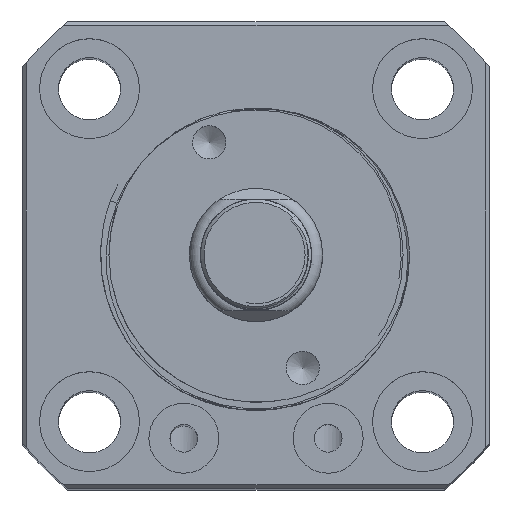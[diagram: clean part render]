
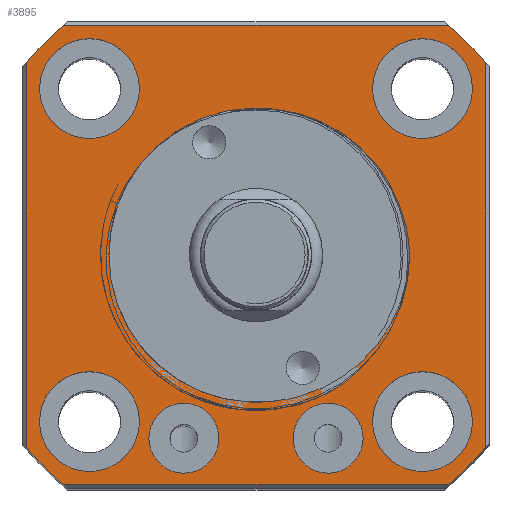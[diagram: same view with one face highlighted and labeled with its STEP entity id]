
A CAD part, top view. The second image highlights one B-rep face of the part: STEP entity #3895.
In plain terms, the highlighted planar face has unit normal (0, 0, 1).
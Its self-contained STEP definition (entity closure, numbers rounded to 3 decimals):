
#3498=B_SPLINE_CURVE_WITH_KNOTS('',3,(#15824,#15825,#15826,#15827,#15828,
#15829),.UNSPECIFIED.,.F.,.F.,(4,2,4),(0.,0.5,1.),.UNSPECIFIED.);
#3499=B_SPLINE_CURVE_WITH_KNOTS('',3,(#15831,#15832,#15833,#15834,#15835,
#15836),.UNSPECIFIED.,.F.,.F.,(4,2,4),(0.,0.5,1.),.UNSPECIFIED.);
#3895=ADVANCED_FACE('',(#4742,#4743,#4744,#4745,#4746,#4747,#4748,#4749),
#4380,.T.);
#4380=PLANE('',#12700);
#4742=FACE_BOUND('',#4951,.T.);
#4743=FACE_BOUND('',#4952,.T.);
#4744=FACE_BOUND('',#4953,.T.);
#4745=FACE_BOUND('',#4954,.T.);
#4746=FACE_BOUND('',#4955,.T.);
#4747=FACE_BOUND('',#4956,.T.);
#4748=FACE_BOUND('',#4957,.T.);
#4749=FACE_BOUND('',#4958,.T.);
#4951=EDGE_LOOP('',(#7504));
#4952=EDGE_LOOP('',(#7505));
#4953=EDGE_LOOP('',(#7506));
#4954=EDGE_LOOP('',(#7507));
#4955=EDGE_LOOP('',(#7508));
#4956=EDGE_LOOP('',(#7509));
#4957=EDGE_LOOP('',(#7510,#7511,#7512));
#4958=EDGE_LOOP('',(#7513,#7514,#7515,#7516,#7517,#7518,#7519,#7520));
#5539=LINE('',#15837,#6420);
#5540=LINE('',#15842,#6421);
#5541=LINE('',#15846,#6422);
#5542=LINE('',#15850,#6423);
#6420=VECTOR('',#13249,1.);
#6421=VECTOR('',#13252,1.);
#6422=VECTOR('',#13255,1.);
#6423=VECTOR('',#13258,1.);
#7504=ORIENTED_EDGE('',*,*,#11168,.F.);
#7505=ORIENTED_EDGE('',*,*,#11170,.F.);
#7506=ORIENTED_EDGE('',*,*,#11188,.F.);
#7507=ORIENTED_EDGE('',*,*,#11190,.F.);
#7508=ORIENTED_EDGE('',*,*,#11192,.F.);
#7509=ORIENTED_EDGE('',*,*,#11194,.F.);
#7510=ORIENTED_EDGE('',*,*,#11224,.F.);
#7511=ORIENTED_EDGE('',*,*,#11246,.T.);
#7512=ORIENTED_EDGE('',*,*,#11247,.T.);
#7513=ORIENTED_EDGE('',*,*,#11248,.T.);
#7514=ORIENTED_EDGE('',*,*,#11249,.T.);
#7515=ORIENTED_EDGE('',*,*,#11250,.T.);
#7516=ORIENTED_EDGE('',*,*,#11251,.T.);
#7517=ORIENTED_EDGE('',*,*,#11252,.T.);
#7518=ORIENTED_EDGE('',*,*,#11253,.T.);
#7519=ORIENTED_EDGE('',*,*,#11254,.T.);
#7520=ORIENTED_EDGE('',*,*,#11255,.T.);
#10183=VERTEX_POINT('',#15223);
#10185=VERTEX_POINT('',#15228);
#10202=VERTEX_POINT('',#15398);
#10204=VERTEX_POINT('',#15403);
#10206=VERTEX_POINT('',#15408);
#10208=VERTEX_POINT('',#15413);
#10238=VERTEX_POINT('',#15631);
#10239=VERTEX_POINT('',#15633);
#10260=VERTEX_POINT('',#15830);
#10261=VERTEX_POINT('',#15838);
#10262=VERTEX_POINT('',#15839);
#10263=VERTEX_POINT('',#15841);
#10264=VERTEX_POINT('',#15843);
#10265=VERTEX_POINT('',#15845);
#10266=VERTEX_POINT('',#15847);
#10267=VERTEX_POINT('',#15849);
#10268=VERTEX_POINT('',#15851);
#11168=EDGE_CURVE('',#10183,#10183,#12539,.T.);
#11170=EDGE_CURVE('',#10185,#10185,#12541,.T.);
#11188=EDGE_CURVE('',#10202,#10202,#12556,.T.);
#11190=EDGE_CURVE('',#10204,#10204,#12558,.T.);
#11192=EDGE_CURVE('',#10206,#10206,#12560,.T.);
#11194=EDGE_CURVE('',#10208,#10208,#12562,.T.);
#11224=EDGE_CURVE('',#10238,#10239,#12572,.T.);
#11246=EDGE_CURVE('',#10238,#10260,#3498,.T.);
#11247=EDGE_CURVE('',#10260,#10239,#3499,.T.);
#11248=EDGE_CURVE('',#10261,#10262,#5539,.T.);
#11249=EDGE_CURVE('',#10262,#10263,#12574,.T.);
#11250=EDGE_CURVE('',#10263,#10264,#5540,.T.);
#11251=EDGE_CURVE('',#10264,#10265,#12575,.T.);
#11252=EDGE_CURVE('',#10265,#10266,#5541,.T.);
#11253=EDGE_CURVE('',#10266,#10267,#12576,.T.);
#11254=EDGE_CURVE('',#10267,#10268,#5542,.T.);
#11255=EDGE_CURVE('',#10268,#10261,#12577,.T.);
#12539=CIRCLE('',#12642,3.15);
#12541=CIRCLE('',#12645,3.15);
#12556=CIRCLE('',#12669,4.5);
#12558=CIRCLE('',#12672,4.5);
#12560=CIRCLE('',#12675,4.5);
#12562=CIRCLE('',#12678,4.5);
#12572=CIRCLE('',#12693,13.25);
#12574=CIRCLE('',#12696,27.);
#12575=CIRCLE('',#12697,27.);
#12576=CIRCLE('',#12698,27.);
#12577=CIRCLE('',#12699,27.);
#12642=AXIS2_PLACEMENT_3D('',#15222,#13140,#13141);
#12645=AXIS2_PLACEMENT_3D('',#15227,#13146,#13147);
#12669=AXIS2_PLACEMENT_3D('',#15397,#13194,#13195);
#12672=AXIS2_PLACEMENT_3D('',#15402,#13200,#13201);
#12675=AXIS2_PLACEMENT_3D('',#15407,#13206,#13207);
#12678=AXIS2_PLACEMENT_3D('',#15412,#13212,#13213);
#12693=AXIS2_PLACEMENT_3D('',#15632,#13242,#13243);
#12696=AXIS2_PLACEMENT_3D('',#15840,#13250,#13251);
#12697=AXIS2_PLACEMENT_3D('',#15844,#13253,#13254);
#12698=AXIS2_PLACEMENT_3D('',#15848,#13256,#13257);
#12699=AXIS2_PLACEMENT_3D('',#15852,#13259,#13260);
#12700=AXIS2_PLACEMENT_3D('',#15853,#13261,#13262);
#13140=DIRECTION('',(0.,0.,1.));
#13141=DIRECTION('',(1.,0.,0.));
#13146=DIRECTION('',(0.,0.,1.));
#13147=DIRECTION('',(1.,0.,0.));
#13194=DIRECTION('',(0.,0.,1.));
#13195=DIRECTION('',(1.,0.,0.));
#13200=DIRECTION('',(0.,0.,1.));
#13201=DIRECTION('',(1.,0.,0.));
#13206=DIRECTION('',(0.,0.,1.));
#13207=DIRECTION('',(1.,0.,0.));
#13212=DIRECTION('',(0.,0.,1.));
#13213=DIRECTION('',(1.,0.,0.));
#13242=DIRECTION('',(0.,0.,1.));
#13243=DIRECTION('',(1.,0.,0.));
#13249=DIRECTION('',(0.,1.,0.));
#13250=DIRECTION('',(0.,0.,1.));
#13251=DIRECTION('',(1.,0.,0.));
#13252=DIRECTION('',(-1.,0.,0.));
#13253=DIRECTION('',(0.,0.,1.));
#13254=DIRECTION('',(1.,0.,0.));
#13255=DIRECTION('',(0.,-1.,0.));
#13256=DIRECTION('',(0.,0.,1.));
#13257=DIRECTION('',(1.,0.,0.));
#13258=DIRECTION('',(1.,0.,0.));
#13259=DIRECTION('',(0.,0.,1.));
#13260=DIRECTION('',(1.,0.,0.));
#13261=DIRECTION('',(0.,0.,1.));
#13262=DIRECTION('',(-1.,0.,0.));
#15222=CARTESIAN_POINT('',(-127.768,-2.553,100.802));
#15223=CARTESIAN_POINT('',(-124.618,-2.553,100.802));
#15227=CARTESIAN_POINT('',(-114.768,-2.553,100.802));
#15228=CARTESIAN_POINT('',(-111.618,-2.553,100.802));
#15397=CARTESIAN_POINT('',(-136.268,-1.053,100.802));
#15398=CARTESIAN_POINT('',(-131.768,-1.053,100.802));
#15402=CARTESIAN_POINT('',(-106.268,-1.053,100.802));
#15403=CARTESIAN_POINT('',(-101.768,-1.053,100.802));
#15407=CARTESIAN_POINT('',(-106.268,28.947,100.802));
#15408=CARTESIAN_POINT('',(-101.768,28.947,100.802));
#15412=CARTESIAN_POINT('',(-136.268,28.947,100.802));
#15413=CARTESIAN_POINT('',(-131.768,28.947,100.802));
#15631=CARTESIAN_POINT('',(-119.54,27.083,100.802));
#15632=CARTESIAN_POINT('',(-121.268,13.947,100.802));
#15633=CARTESIAN_POINT('',(-119.54,0.81,100.802));
#15824=CARTESIAN_POINT('',(-119.54,27.083,100.802));
#15825=CARTESIAN_POINT('',(-116.277,26.756,100.802));
#15826=CARTESIAN_POINT('',(-113.194,25.185,100.802));
#15827=CARTESIAN_POINT('',(-108.825,20.417,100.802));
#15828=CARTESIAN_POINT('',(-107.514,17.224,100.802));
#15829=CARTESIAN_POINT('',(-107.421,13.947,100.802));
#15830=CARTESIAN_POINT('',(-107.421,13.947,100.802));
#15831=CARTESIAN_POINT('',(-107.421,13.947,100.802));
#15832=CARTESIAN_POINT('',(-107.514,10.669,100.802));
#15833=CARTESIAN_POINT('',(-108.826,7.475,100.802));
#15834=CARTESIAN_POINT('',(-113.194,2.708,100.802));
#15835=CARTESIAN_POINT('',(-116.276,1.137,100.802));
#15836=CARTESIAN_POINT('',(-119.54,0.81,100.802));
#15837=CARTESIAN_POINT('',(-100.568,34.947,100.802));
#15838=CARTESIAN_POINT('',(-100.568,-3.388,100.802));
#15839=CARTESIAN_POINT('',(-100.568,31.282,100.802));
#15840=CARTESIAN_POINT('',(-121.268,13.947,100.802));
#15841=CARTESIAN_POINT('',(-103.933,34.647,100.802));
#15842=CARTESIAN_POINT('',(-142.268,34.647,100.802));
#15843=CARTESIAN_POINT('',(-138.603,34.647,100.802));
#15844=CARTESIAN_POINT('',(-121.268,13.947,100.802));
#15845=CARTESIAN_POINT('',(-141.968,31.282,100.802));
#15846=CARTESIAN_POINT('',(-141.968,-7.053,100.802));
#15847=CARTESIAN_POINT('',(-141.968,-3.388,100.802));
#15848=CARTESIAN_POINT('',(-121.268,13.947,100.802));
#15849=CARTESIAN_POINT('',(-138.603,-6.753,100.802));
#15850=CARTESIAN_POINT('',(-100.268,-6.753,100.802));
#15851=CARTESIAN_POINT('',(-103.933,-6.753,100.802));
#15852=CARTESIAN_POINT('',(-121.268,13.947,100.802));
#15853=CARTESIAN_POINT('',(-121.268,13.947,100.802));
